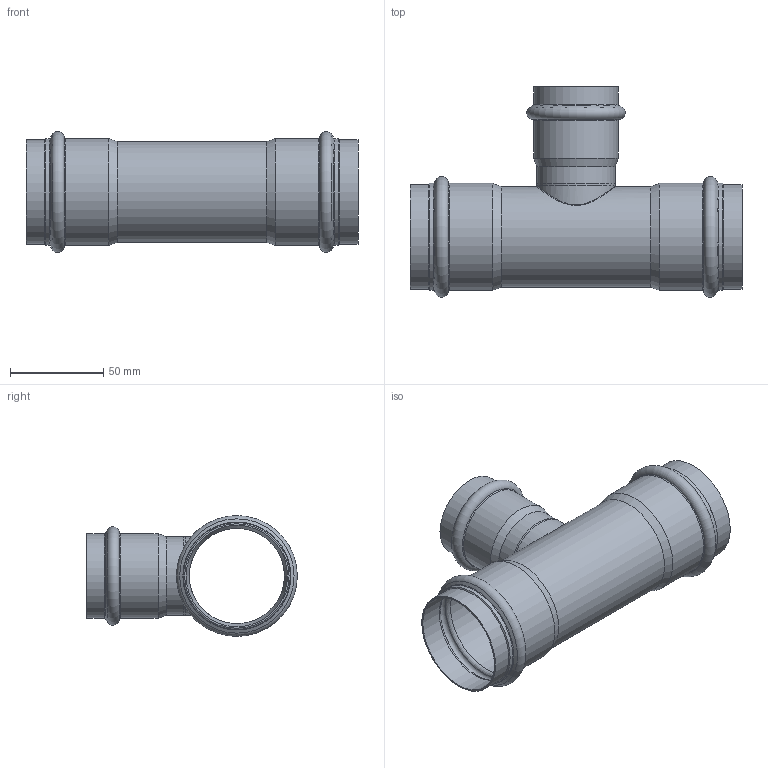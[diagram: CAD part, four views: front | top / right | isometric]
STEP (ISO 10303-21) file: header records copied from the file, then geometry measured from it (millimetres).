
FILE_DESCRIPTION((''),'2;1');
FILE_NAME('G:\Technics\CAD\Bauteile\054\69130544254(1).stp','2008-03-05T15:21:02',('herberg'),(''),'Autodesk Inventor 2008','Autodesk Inventor 2008','');
FILE_SCHEMA(('AUTOMOTIVE_DESIGN { 1 0 10303 214 1 1 1 1 }'));
Length unit declared in the file: millimetre
Products named in the file (3): 69130544254(1); 691305442LM(1); HM_6924342(2)
Assembly tree (2 placements, depth 2):
  69130544254(1)
    691305442LM(1)
    HM_6924342(2)
Bounding box: 178 x 112.9 x 64.8 mm (x, y, z)
Volume: 56486.9 mm3; surface area: 79618.7 mm2
Topology: 2 solids, 2 shells, 59 faces, 125 edges, 70 vertices
Faces by surface type: cylinder 20, cone 14, bspline 14, torus 6, plane 5
Full cylindrical faces by diameter (mm): 39 x2, 42 x2, 42.3 x2, 45.3 x2, 51 x1, 54 x1, 54.35 x4, 55.95 x2, 57.35 x4
Entity records: 3305 total; most frequent: CARTESIAN_POINT 2260, DIRECTION 214, ORIENTED_EDGE 124, EDGE_LOOP 118, AXIS2_PLACEMENT_3D 107, EDGE_CURVE 62, VERTEX_POINT 60, FACE_OUTER_BOUND 59
